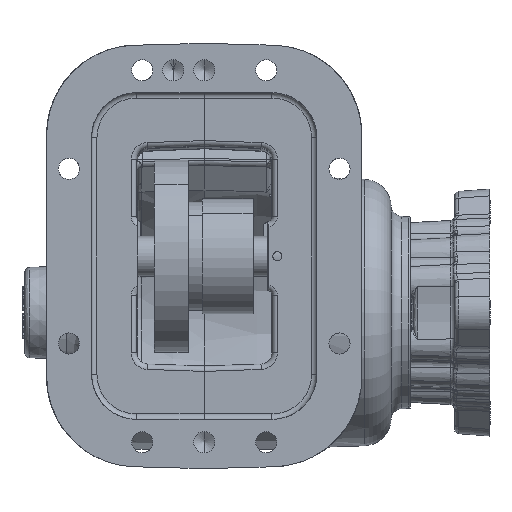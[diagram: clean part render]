
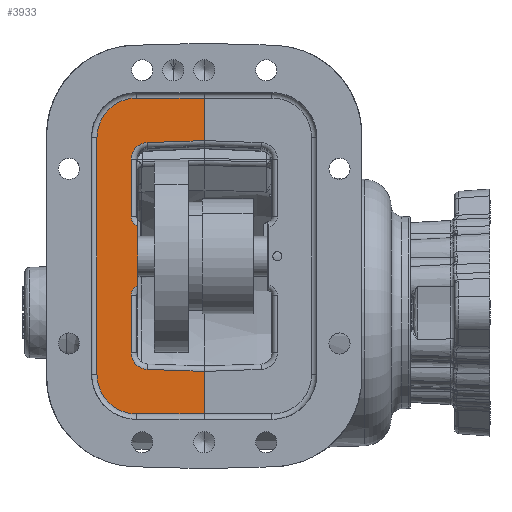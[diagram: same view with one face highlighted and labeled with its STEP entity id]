
A CAD part, front view. The second image highlights one B-rep face of the part: STEP entity #3933.
In plain terms, the highlighted planar face has unit normal (0, -1, 0).
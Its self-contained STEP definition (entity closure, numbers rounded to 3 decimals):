
#3933 = ADVANCED_FACE ( 'NONE', ( #104514 ), #103452, .F. ) ;
#7884 = CARTESIAN_POINT ( 'NONE',  ( -70.842, -133.047, 88.572 ) ) ;
#10446 = ORIENTED_EDGE ( 'NONE', *, *, #90945, .F. ) ;
#10450 = ORIENTED_EDGE ( 'NONE', *, *, #90854, .F. ) ;
#10453 = ORIENTED_EDGE ( 'NONE', *, *, #74546, .F. ) ;
#10455 = ORIENTED_EDGE ( 'NONE', *, *, #74540, .F. ) ;
#10459 = ORIENTED_EDGE ( 'NONE', *, *, #74534, .F. ) ;
#10462 = ORIENTED_EDGE ( 'NONE', *, *, #90948, .T. ) ;
#10464 = ORIENTED_EDGE ( 'NONE', *, *, #74630, .F. ) ;
#10465 = VERTEX_POINT ( 'NONE', #64599 ) ;
#10469 = ORIENTED_EDGE ( 'NONE', *, *, #74625, .F. ) ;
#10472 = ORIENTED_EDGE ( 'NONE', *, *, #74632, .F. ) ;
#10476 = ORIENTED_EDGE ( 'NONE', *, *, #74638, .F. ) ;
#10480 = ORIENTED_EDGE ( 'NONE', *, *, #74644, .F. ) ;
#10484 = ORIENTED_EDGE ( 'NONE', *, *, #90952, .T. ) ;
#10486 = ORIENTED_EDGE ( 'NONE', *, *, #74564, .F. ) ;
#10489 = ORIENTED_EDGE ( 'NONE', *, *, #74560, .F. ) ;
#10492 = ORIENTED_EDGE ( 'NONE', *, *, #74554, .F. ) ;
#10494 = ORIENTED_EDGE ( 'NONE', *, *, #90901, .F. ) ;
#21944 = EDGE_LOOP ( 'NONE', ( #10446, #10450, #10453, #10455, #10459, #10462, #10464, #10469, #10472, #10476, #10480, #10484, #10486, #10489, #10492, #10494 ) ) ;
#26736 = CARTESIAN_POINT ( 'NONE',  ( -48.49, -133.047, 110.924 ) ) ;
#28126 = AXIS2_PLACEMENT_3D ( 'NONE', #103448, #103454, #103455 ) ;
#29141 = CIRCLE ( 'NONE', #41920, 6.096 ) ;
#29240 = CIRCLE ( 'NONE', #41935, 6.096 ) ;
#29294 = VECTOR ( 'NONE', #54604, 1000. ) ;
#29301 = LINE ( 'NONE', #54618, #29327 ) ;
#29316 = LINE ( 'NONE', #54605, #29294 ) ;
#29319 = VECTOR ( 'NONE', #54617, 1000. ) ;
#29327 = VECTOR ( 'NONE', #54615, 1000. ) ;
#29331 = LINE ( 'NONE', #54625, #29319 ) ;
#34208 = CARTESIAN_POINT ( 'NONE',  ( -45.442, -133.047, 44.059 ) ) ;
#34209 = DIRECTION ( 'NONE',  ( 0., -1., 0. ) ) ;
#34210 = DIRECTION ( 'NONE',  ( 0., 0., -1. ) ) ;
#34367 = CARTESIAN_POINT ( 'NONE',  ( -45.442, -133.047, -0.265 ) ) ;
#34368 = DIRECTION ( 'NONE',  ( 0., -1., 0. ) ) ;
#34369 = DIRECTION ( 'NONE',  ( 0., 0., -1. ) ) ;
#34470 = CARTESIAN_POINT ( 'NONE',  ( -51.538, -133.047, 76.41 ) ) ;
#34471 = CARTESIAN_POINT ( 'NONE',  ( -10.39, -133.047, 86.923 ) ) ;
#34759 = CARTESIAN_POINT ( 'NONE',  ( -47.728, -133.047, 5.386 ) ) ;
#34934 = CARTESIAN_POINT ( 'NONE',  ( -47.728, -133.047, 38.408 ) ) ;
#38076 = CARTESIAN_POINT ( 'NONE',  ( -51.538, -133.047, -32.617 ) ) ;
#38088 = CARTESIAN_POINT ( 'NONE',  ( -10.39, -133.047, 110.924 ) ) ;
#38135 = CARTESIAN_POINT ( 'NONE',  ( -10.39, -133.047, -67.13 ) ) ;
#38137 = CARTESIAN_POINT ( 'NONE',  ( -48.49, -133.047, -67.13 ) ) ;
#38815 = CARTESIAN_POINT ( 'NONE',  ( -70.842, -133.047, -44.778 ) ) ;
#41920 = AXIS2_PLACEMENT_3D ( 'NONE', #34208, #34209, #34210 ) ;
#41935 = AXIS2_PLACEMENT_3D ( 'NONE', #34367, #34368, #34369 ) ;
#50818 = AXIS2_PLACEMENT_3D ( 'NONE', #98866, #98868, #98870 ) ;
#50830 = AXIS2_PLACEMENT_3D ( 'NONE', #98991, #98993, #98995 ) ;
#50853 = AXIS2_PLACEMENT_3D ( 'NONE', #62681, #62683, #62685 ) ;
#50860 = AXIS2_PLACEMENT_3D ( 'NONE', #62760, #62761, #62763 ) ;
#54604 = DIRECTION ( 'NONE',  ( 0., 0., -1. ) ) ;
#54605 = CARTESIAN_POINT ( 'NONE',  ( -47.728, -133.047, -95.578 ) ) ;
#54615 = DIRECTION ( 'NONE',  ( 0., 0., 1. ) ) ;
#54617 = DIRECTION ( 'NONE',  ( 0., 0., 1. ) ) ;
#54618 = CARTESIAN_POINT ( 'NONE',  ( -10.39, -133.047, -95.578 ) ) ;
#54625 = CARTESIAN_POINT ( 'NONE',  ( -10.39, -133.047, -95.578 ) ) ;
#61483 = CARTESIAN_POINT ( 'NONE',  ( -42.468, -133.047, 85.803 ) ) ;
#61485 = CARTESIAN_POINT ( 'NONE',  ( -51.538, -133.047, 44.059 ) ) ;
#61606 = CARTESIAN_POINT ( 'NONE',  ( -42.468, -133.047, -42.009 ) ) ;
#61609 = CARTESIAN_POINT ( 'NONE',  ( -51.538, -133.047, -0.265 ) ) ;
#62331 = VERTEX_POINT ( 'NONE', #38076 ) ;
#62369 = VERTEX_POINT ( 'NONE', #38088 ) ;
#62681 = CARTESIAN_POINT ( 'NONE',  ( -48.49, -133.047, 88.572 ) ) ;
#62683 = DIRECTION ( 'NONE',  ( 0., 1., 0. ) ) ;
#62685 = DIRECTION ( 'NONE',  ( 0., 0., -1. ) ) ;
#62687 = DIRECTION ( 'NONE',  ( 0., 0., 1. ) ) ;
#62714 = CARTESIAN_POINT ( 'NONE',  ( -10.39, -133.047, 110.924 ) ) ;
#62717 = DIRECTION ( 'NONE',  ( 1., 0., 0. ) ) ;
#62721 = CARTESIAN_POINT ( 'NONE',  ( -70.842, -133.047, 88.572 ) ) ;
#62760 = CARTESIAN_POINT ( 'NONE',  ( -48.49, -133.047, -44.778 ) ) ;
#62761 = DIRECTION ( 'NONE',  ( 0., 1., 0. ) ) ;
#62763 = DIRECTION ( 'NONE',  ( 0., 0., -1. ) ) ;
#62788 = DIRECTION ( 'NONE',  ( -1., 0., 0. ) ) ;
#62797 = CARTESIAN_POINT ( 'NONE',  ( -48.49, -133.047, -67.13 ) ) ;
#64599 = CARTESIAN_POINT ( 'NONE',  ( -10.39, -133.047, -43.129 ) ) ;
#64944 = LINE ( 'NONE', #98820, #64947 ) ;
#64947 = VECTOR ( 'NONE', #98822, 1000. ) ;
#64952 = CIRCLE ( 'NONE', #50818, 9.398 ) ;
#64960 = LINE ( 'NONE', #98897, #64963 ) ;
#64963 = VECTOR ( 'NONE', #98900, 1000. ) ;
#64973 = LINE ( 'NONE', #98936, #64975 ) ;
#64975 = VECTOR ( 'NONE', #98927, 1000. ) ;
#64980 = CIRCLE ( 'NONE', #50830, 9.398 ) ;
#64984 = LINE ( 'NONE', #99014, #64987 ) ;
#64987 = VECTOR ( 'NONE', #99017, 1000. ) ;
#65020 = CIRCLE ( 'NONE', #50853, 22.352 ) ;
#65031 = LINE ( 'NONE', #62721, #65038 ) ;
#65032 = LINE ( 'NONE', #62714, #65035 ) ;
#65035 = VECTOR ( 'NONE', #62717, 1000. ) ;
#65038 = VECTOR ( 'NONE', #62687, 1000. ) ;
#65041 = CIRCLE ( 'NONE', #50860, 22.352 ) ;
#65049 = LINE ( 'NONE', #62797, #65054 ) ;
#65054 = VECTOR ( 'NONE', #62788, 1000. ) ;
#65172 = VERTEX_POINT ( 'NONE', #38135 ) ;
#65176 = VERTEX_POINT ( 'NONE', #38137 ) ;
#65180 = VERTEX_POINT ( 'NONE', #38815 ) ;
#65181 = VERTEX_POINT ( 'NONE', #26736 ) ;
#65207 = VERTEX_POINT ( 'NONE', #34470 ) ;
#65209 = VERTEX_POINT ( 'NONE', #34471 ) ;
#65772 = VERTEX_POINT ( 'NONE', #34759 ) ;
#66108 = VERTEX_POINT ( 'NONE', #34934 ) ;
#74534 = EDGE_CURVE ( 'NONE', #65209, #80432, #64944, .T. ) ;
#74540 = EDGE_CURVE ( 'NONE', #80432, #65207, #64952, .T. ) ;
#74546 = EDGE_CURVE ( 'NONE', #65207, #80438, #64960, .T. ) ;
#74554 = EDGE_CURVE ( 'NONE', #86893, #62331, #64973, .T. ) ;
#74560 = EDGE_CURVE ( 'NONE', #62331, #86799, #64980, .T. ) ;
#74564 = EDGE_CURVE ( 'NONE', #86799, #10465, #64984, .T. ) ;
#74625 = EDGE_CURVE ( 'NONE', #108544, #65181, #65020, .T. ) ;
#74630 = EDGE_CURVE ( 'NONE', #65181, #62369, #65032, .T. ) ;
#74632 = EDGE_CURVE ( 'NONE', #65180, #108544, #65031, .T. ) ;
#74638 = EDGE_CURVE ( 'NONE', #65176, #65180, #65041, .T. ) ;
#74644 = EDGE_CURVE ( 'NONE', #65172, #65176, #65049, .T. ) ;
#80432 = VERTEX_POINT ( 'NONE', #61483 ) ;
#80438 = VERTEX_POINT ( 'NONE', #61485 ) ;
#86799 = VERTEX_POINT ( 'NONE', #61606 ) ;
#86893 = VERTEX_POINT ( 'NONE', #61609 ) ;
#90854 = EDGE_CURVE ( 'NONE', #80438, #66108, #29141, .T. ) ;
#90901 = EDGE_CURVE ( 'NONE', #65772, #86893, #29240, .T. ) ;
#90945 = EDGE_CURVE ( 'NONE', #66108, #65772, #29316, .T. ) ;
#90948 = EDGE_CURVE ( 'NONE', #65209, #62369, #29301, .T. ) ;
#90952 = EDGE_CURVE ( 'NONE', #65172, #10465, #29331, .T. ) ;
#98820 = CARTESIAN_POINT ( 'NONE',  ( -42.468, -133.047, 85.803 ) ) ;
#98822 = DIRECTION ( 'NONE',  ( -0.999, 0., -0.035 ) ) ;
#98866 = CARTESIAN_POINT ( 'NONE',  ( -42.14, -133.047, 76.41 ) ) ;
#98868 = DIRECTION ( 'NONE',  ( 0., -1., 0. ) ) ;
#98870 = DIRECTION ( 'NONE',  ( 0., 0., -1. ) ) ;
#98897 = CARTESIAN_POINT ( 'NONE',  ( -51.538, -133.047, 44.059 ) ) ;
#98900 = DIRECTION ( 'NONE',  ( 0., 0., -1. ) ) ;
#98927 = DIRECTION ( 'NONE',  ( 0., 0., -1. ) ) ;
#98936 = CARTESIAN_POINT ( 'NONE',  ( -51.538, -133.047, -32.617 ) ) ;
#98991 = CARTESIAN_POINT ( 'NONE',  ( -42.14, -133.047, -32.617 ) ) ;
#98993 = DIRECTION ( 'NONE',  ( 0., -1., 0. ) ) ;
#98995 = DIRECTION ( 'NONE',  ( 0., 0., -1. ) ) ;
#99014 = CARTESIAN_POINT ( 'NONE',  ( -10.497, -133.047, -43.125 ) ) ;
#99017 = DIRECTION ( 'NONE',  ( 0.999, 0., -0.035 ) ) ;
#103448 = CARTESIAN_POINT ( 'NONE',  ( -99.29, -133.047, -95.578 ) ) ;
#103452 = PLANE ( 'NONE',  #28126 ) ;
#103454 = DIRECTION ( 'NONE',  ( 0., 1., 0. ) ) ;
#103455 = DIRECTION ( 'NONE',  ( 0., 0., -1. ) ) ;
#104514 = FACE_OUTER_BOUND ( 'NONE', #21944, .T. ) ;
#108544 = VERTEX_POINT ( 'NONE', #7884 ) ;
